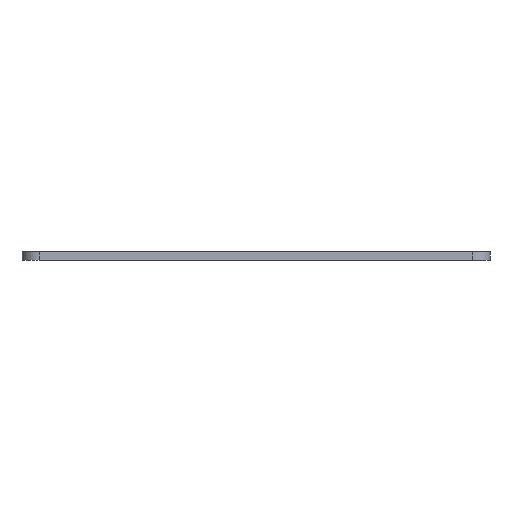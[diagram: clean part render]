
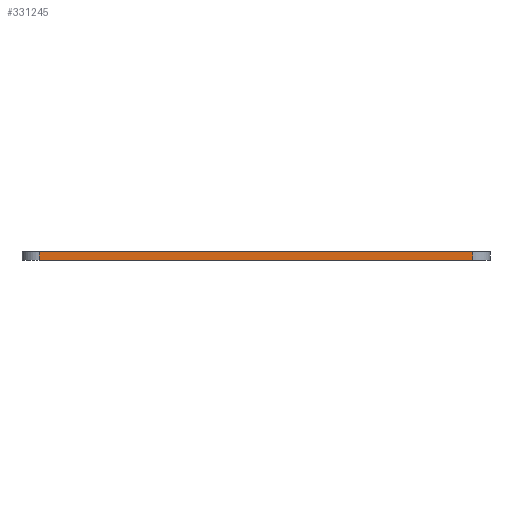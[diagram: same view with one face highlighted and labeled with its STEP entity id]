
A CAD part, left-side view. The second image highlights one B-rep face of the part: STEP entity #331245.
In plain terms, the highlighted planar face has unit normal (-1, 0, 0).
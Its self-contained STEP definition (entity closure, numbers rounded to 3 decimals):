
#271995 = PLANE('',#271996);
#271996 = AXIS2_PLACEMENT_3D('',#271997,#271998,#271999);
#271997 = CARTESIAN_POINT('',(0.,0.,1.51));
#271998 = DIRECTION('',(0.,0.,1.));
#271999 = DIRECTION('',(1.,0.,-0.));
#272054 = PLANE('',#272055);
#272055 = AXIS2_PLACEMENT_3D('',#272056,#272057,#272058);
#272056 = CARTESIAN_POINT('',(0.,0.,0.));
#272057 = DIRECTION('',(0.,0.,1.));
#272058 = DIRECTION('',(1.,0.,-0.));
#272091 = CYLINDRICAL_SURFACE('',#272092,3.);
#272092 = AXIS2_PLACEMENT_3D('',#272093,#272094,#272095);
#272093 = CARTESIAN_POINT('',(-37.64,37.64,0.));
#272094 = DIRECTION('',(0.,0.,-1.));
#272095 = DIRECTION('',(-1.,0.,0.));
#272228 = VERTEX_POINT('',#272229);
#272229 = CARTESIAN_POINT('',(-40.64,37.64,0.));
#272255 = EDGE_CURVE('',#272256,#272228,#272258,.T.);
#272256 = VERTEX_POINT('',#272257);
#272257 = CARTESIAN_POINT('',(-40.64,-37.64,0.));
#272258 = SURFACE_CURVE('',#272259,(#272263,#272270),.PCURVE_S1.);
#272259 = LINE('',#272260,#272261);
#272260 = CARTESIAN_POINT('',(-40.64,-37.64,0.));
#272261 = VECTOR('',#272262,1.);
#272262 = DIRECTION('',(0.,1.,0.));
#272263 = PCURVE('',#272054,#272264);
#272264 = DEFINITIONAL_REPRESENTATION('',(#272265),#272269);
#272265 = LINE('',#272266,#272267);
#272266 = CARTESIAN_POINT('',(-40.64,-37.64));
#272267 = VECTOR('',#272268,1.);
#272268 = DIRECTION('',(0.,1.));
#272269 = ( GEOMETRIC_REPRESENTATION_CONTEXT(2) 
PARAMETRIC_REPRESENTATION_CONTEXT() REPRESENTATION_CONTEXT('2D SPACE',''
  ) );
#272270 = PCURVE('',#272271,#272276);
#272271 = PLANE('',#272272);
#272272 = AXIS2_PLACEMENT_3D('',#272273,#272274,#272275);
#272273 = CARTESIAN_POINT('',(-40.64,-37.64,0.));
#272274 = DIRECTION('',(-1.,0.,0.));
#272275 = DIRECTION('',(0.,1.,0.));
#272276 = DEFINITIONAL_REPRESENTATION('',(#272277),#272281);
#272277 = LINE('',#272278,#272279);
#272278 = CARTESIAN_POINT('',(0.,0.));
#272279 = VECTOR('',#272280,1.);
#272280 = DIRECTION('',(1.,0.));
#272281 = ( GEOMETRIC_REPRESENTATION_CONTEXT(2) 
PARAMETRIC_REPRESENTATION_CONTEXT() REPRESENTATION_CONTEXT('2D SPACE',''
  ) );
#272304 = CYLINDRICAL_SURFACE('',#272305,3.);
#272305 = AXIS2_PLACEMENT_3D('',#272306,#272307,#272308);
#272306 = CARTESIAN_POINT('',(-37.64,-37.64,0.));
#272307 = DIRECTION('',(0.,0.,-1.));
#272308 = DIRECTION('',(0.,-1.,-0.));
#304508 = VERTEX_POINT('',#304509);
#304509 = CARTESIAN_POINT('',(-40.64,37.64,1.51));
#304535 = EDGE_CURVE('',#304536,#304508,#304538,.T.);
#304536 = VERTEX_POINT('',#304537);
#304537 = CARTESIAN_POINT('',(-40.64,-37.64,1.51));
#304538 = SURFACE_CURVE('',#304539,(#304543,#304550),.PCURVE_S1.);
#304539 = LINE('',#304540,#304541);
#304540 = CARTESIAN_POINT('',(-40.64,-37.64,1.51));
#304541 = VECTOR('',#304542,1.);
#304542 = DIRECTION('',(0.,1.,0.));
#304543 = PCURVE('',#271995,#304544);
#304544 = DEFINITIONAL_REPRESENTATION('',(#304545),#304549);
#304545 = LINE('',#304546,#304547);
#304546 = CARTESIAN_POINT('',(-40.64,-37.64));
#304547 = VECTOR('',#304548,1.);
#304548 = DIRECTION('',(0.,1.));
#304549 = ( GEOMETRIC_REPRESENTATION_CONTEXT(2) 
PARAMETRIC_REPRESENTATION_CONTEXT() REPRESENTATION_CONTEXT('2D SPACE',''
  ) );
#304550 = PCURVE('',#272271,#304551);
#304551 = DEFINITIONAL_REPRESENTATION('',(#304552),#304556);
#304552 = LINE('',#304553,#304554);
#304553 = CARTESIAN_POINT('',(0.,-1.51));
#304554 = VECTOR('',#304555,1.);
#304555 = DIRECTION('',(1.,0.));
#304556 = ( GEOMETRIC_REPRESENTATION_CONTEXT(2) 
PARAMETRIC_REPRESENTATION_CONTEXT() REPRESENTATION_CONTEXT('2D SPACE',''
  ) );
#331195 = EDGE_CURVE('',#272228,#304508,#331196,.T.);
#331196 = SURFACE_CURVE('',#331197,(#331201,#331208),.PCURVE_S1.);
#331197 = LINE('',#331198,#331199);
#331198 = CARTESIAN_POINT('',(-40.64,37.64,0.));
#331199 = VECTOR('',#331200,1.);
#331200 = DIRECTION('',(0.,0.,1.));
#331201 = PCURVE('',#272091,#331202);
#331202 = DEFINITIONAL_REPRESENTATION('',(#331203),#331207);
#331203 = LINE('',#331204,#331205);
#331204 = CARTESIAN_POINT('',(0.,0.));
#331205 = VECTOR('',#331206,1.);
#331206 = DIRECTION('',(0.,-1.));
#331207 = ( GEOMETRIC_REPRESENTATION_CONTEXT(2) 
PARAMETRIC_REPRESENTATION_CONTEXT() REPRESENTATION_CONTEXT('2D SPACE',''
  ) );
#331208 = PCURVE('',#272271,#331209);
#331209 = DEFINITIONAL_REPRESENTATION('',(#331210),#331214);
#331210 = LINE('',#331211,#331212);
#331211 = CARTESIAN_POINT('',(75.28,0.));
#331212 = VECTOR('',#331213,1.);
#331213 = DIRECTION('',(0.,-1.));
#331214 = ( GEOMETRIC_REPRESENTATION_CONTEXT(2) 
PARAMETRIC_REPRESENTATION_CONTEXT() REPRESENTATION_CONTEXT('2D SPACE',''
  ) );
#331245 = ADVANCED_FACE('',(#331246),#272271,.T.);
#331246 = FACE_BOUND('',#331247,.T.);
#331247 = EDGE_LOOP('',(#331248,#331269,#331270,#331271));
#331248 = ORIENTED_EDGE('',*,*,#331249,.T.);
#331249 = EDGE_CURVE('',#272256,#304536,#331250,.T.);
#331250 = SURFACE_CURVE('',#331251,(#331255,#331262),.PCURVE_S1.);
#331251 = LINE('',#331252,#331253);
#331252 = CARTESIAN_POINT('',(-40.64,-37.64,0.));
#331253 = VECTOR('',#331254,1.);
#331254 = DIRECTION('',(0.,0.,1.));
#331255 = PCURVE('',#272271,#331256);
#331256 = DEFINITIONAL_REPRESENTATION('',(#331257),#331261);
#331257 = LINE('',#331258,#331259);
#331258 = CARTESIAN_POINT('',(0.,0.));
#331259 = VECTOR('',#331260,1.);
#331260 = DIRECTION('',(0.,-1.));
#331261 = ( GEOMETRIC_REPRESENTATION_CONTEXT(2) 
PARAMETRIC_REPRESENTATION_CONTEXT() REPRESENTATION_CONTEXT('2D SPACE',''
  ) );
#331262 = PCURVE('',#272304,#331263);
#331263 = DEFINITIONAL_REPRESENTATION('',(#331264),#331268);
#331264 = LINE('',#331265,#331266);
#331265 = CARTESIAN_POINT('',(1.571,0.));
#331266 = VECTOR('',#331267,1.);
#331267 = DIRECTION('',(0.,-1.));
#331268 = ( GEOMETRIC_REPRESENTATION_CONTEXT(2) 
PARAMETRIC_REPRESENTATION_CONTEXT() REPRESENTATION_CONTEXT('2D SPACE',''
  ) );
#331269 = ORIENTED_EDGE('',*,*,#304535,.T.);
#331270 = ORIENTED_EDGE('',*,*,#331195,.F.);
#331271 = ORIENTED_EDGE('',*,*,#272255,.F.);
